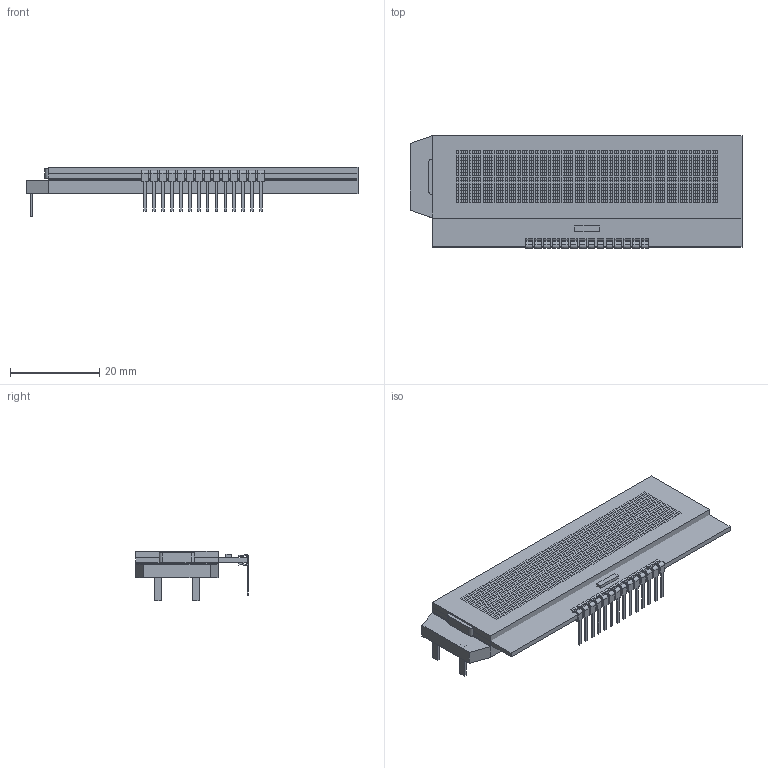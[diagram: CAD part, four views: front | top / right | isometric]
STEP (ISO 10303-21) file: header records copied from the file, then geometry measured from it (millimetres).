
FILE_DESCRIPTION (( 'STEP AP214' ), '1' );
FILE_NAME ('NHD-C0220AA-FSW-FTW.STEP', '2018-02-19T17:34:07', ( '' ), ( '' ), 'SwSTEP 2.0', 'SolidWorks 2018', '' );
FILE_SCHEMA (( 'AUTOMOTIVE_DESIGN' ));
Length unit declared in the file: millimetre
Products named in the file (1): NHD-C0220AA-FSW-FTW
Bounding box: 74.5 x 25.3 x 11.15 mm (x, y, z)
Surface area: 11263.1 mm2 (no closed solid volume)
Topology: 0 solids, 64 shells, 2082 faces, 4998 edges, 2994 vertices
Faces by surface type: bspline 2082
Entity records: 53117 total; most frequent: CARTESIAN_POINT 22887, ORIENTED_EDGE 8928, EDGE_CURVE 4998, B_SPLINE_CURVE_WITH_KNOTS 4844, VERTEX_POINT 2994, FACE_OUTER_BOUND 2082, ADVANCED_FACE 2082, EDGE_LOOP 2082
